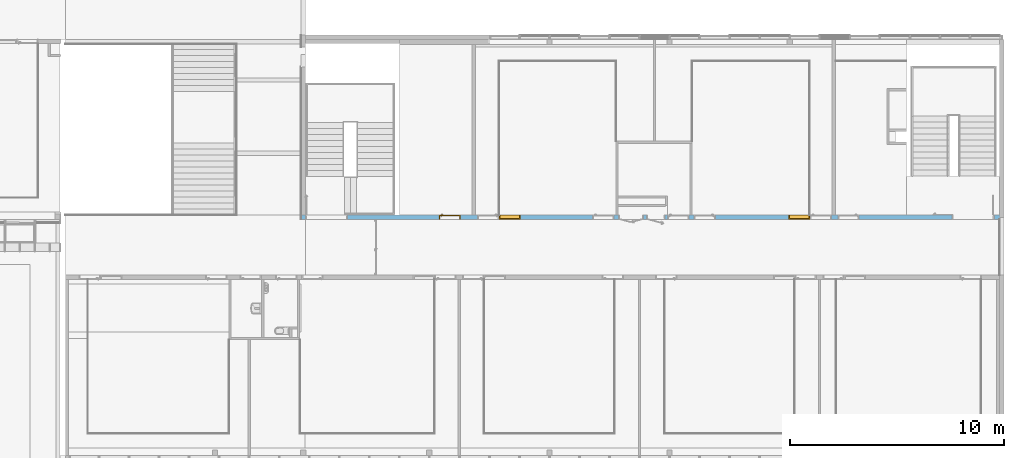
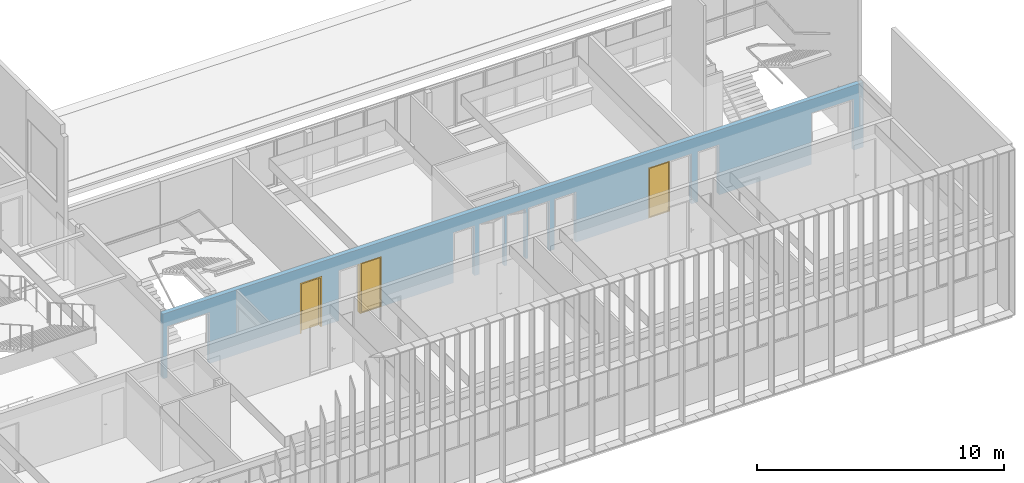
# One storey, part 86 of 106: 2 windows, 1 door, 13 openings, plus 1 element that does not belong to this part.
"""IFC2X3 building model written with IfcOpenShell, lengths in centimetres."""

from ifc_helpers import new_model, entity, si_unit, converted_unit, derived_unit, direction, frame, frame_2d, origin, place, context, subcontext, project, spatial, polyline, rectangle, extrude, clip, bounded_halfspace, faceted_brep, source, transform, mapped, material, material_list, layer, layer_set, layer_usage, type_object, type_shapes, element, fill, save


model = new_model("IFC2X3")

# Units and contexts
model_context = context("Model", 3, precision=0.001, world=origin(), true_north=direction((6.12303176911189e-17, 1.0)))
body_context = subcontext(model_context, "Body", "Model", "MODEL_VIEW")
ifc_project = project(units=[si_unit("LENGTHUNIT", "METRE", prefix="CENTI"), si_unit("AREAUNIT", "SQUARE_METRE"), si_unit("VOLUMEUNIT", "CUBIC_METRE"), converted_unit("PLANEANGLEUNIT", "DEGREE", entity("IfcRatioMeasure", 0.0174532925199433), si_unit("PLANEANGLEUNIT", "RADIAN"), dimensions=[0, 0, 0, 0, 0, 0, 0]), si_unit("MASSUNIT", "GRAM", prefix="KILO"), derived_unit("MASSDENSITYUNIT", [(si_unit("MASSUNIT", "GRAM", prefix="KILO"), 1), (si_unit("LENGTHUNIT", "METRE"), -3)]), si_unit("TIMEUNIT", "SECOND"), si_unit("FREQUENCYUNIT", "HERTZ"), si_unit("THERMODYNAMICTEMPERATUREUNIT", "DEGREE_CELSIUS"), derived_unit("THERMALTRANSMITTANCEUNIT", [(si_unit("MASSUNIT", "GRAM", prefix="KILO"), 1), (si_unit("THERMODYNAMICTEMPERATUREUNIT", "KELVIN"), -1), (si_unit("TIMEUNIT", "SECOND"), -3)]), derived_unit("VOLUMETRICFLOWRATEUNIT", [(si_unit("LENGTHUNIT", "METRE"), 3), (si_unit("TIMEUNIT", "SECOND"), -1)]), si_unit("ELECTRICCURRENTUNIT", "AMPERE"), si_unit("ELECTRICVOLTAGEUNIT", "VOLT"), si_unit("POWERUNIT", "WATT"), si_unit("FORCEUNIT", "NEWTON", prefix="KILO"), si_unit("ILLUMINANCEUNIT", "LUX"), si_unit("LUMINOUSFLUXUNIT", "LUMEN"), si_unit("LUMINOUSINTENSITYUNIT", "CANDELA"), derived_unit("USERDEFINED", [(si_unit("MASSUNIT", "GRAM", prefix="KILO"), -1), (si_unit("LENGTHUNIT", "METRE"), -2), (si_unit("TIMEUNIT", "SECOND"), 3), (si_unit("LUMINOUSFLUXUNIT", "LUMEN"), 1)]), derived_unit("LINEARVELOCITYUNIT", [(si_unit("LENGTHUNIT", "METRE"), 1), (si_unit("TIMEUNIT", "SECOND"), -1)]), si_unit("PRESSUREUNIT", "PASCAL"), derived_unit("USERDEFINED", [(si_unit("LENGTHUNIT", "METRE"), -2), (si_unit("MASSUNIT", "GRAM", prefix="KILO"), 1), (si_unit("TIMEUNIT", "SECOND"), -2)])], contexts=[model_context])

# Site, building, storey
site_placement = place(None, frame((-2781.94577612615, 7442.24238424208, 0.0)))
site = spatial("IfcSite", under=ifc_project, at=site_placement, Name="Default", CompositionType="ELEMENT")
building_placement = place(site_placement, origin())
building = spatial("IfcBuilding", under=site, at=building_placement, CompositionType="ELEMENT")
storey_placement = place(building_placement, frame((0.0, 0.0, 422.0)))
storey = spatial("IfcBuildingStorey", under=building, at=storey_placement, Name="Toiture - Cuisine", CompositionType="ELEMENT", Elevation=421.999999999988)

# Wall, openings, door, windows
ifc_material_1 = material(Name="01 - Maçonnerie")
ifc_layer = layer(ifc_material_1, 20.0)
ifc_layer_set = layer_set([ifc_layer], Name="Mur de base:04 - Structure - béton - 20cm")
ifc_layer_usage = layer_usage(ifc_layer_set, "AXIS2", "NEGATIVE", 10.0)
wall_type = type_object("IfcWallType", Name="Mur de base:04 - Structure - béton - 20cm", PredefinedType="STANDARD", material=ifc_layer_set)
wall_placement = place(building_placement, frame((-3667.99987968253, -1920.07903364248, 422.0)))
wall = element("IfcWallStandardCase", 1, at=wall_placement, inside=storey, type_object=wall_type, material=ifc_layer_usage, Name="Mur de base:04 - Structure - béton - 20cm", ObjectType="Mur de base:04 - Structure - béton - 20cm", context=body_context, shape_type="Clipping", body=[
    clip(clip(extrude(rectangle(XDim=3277.99999684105, YDim=19.9999999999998, at=frame_2d((1638.99999842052, 6.21724893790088e-14), x_axis=(-1.0, 0.0))), origin(), (0.0, 0.0, 1.0), 321.0), bounded_halfspace(frame((0.0, -10.0, 321.0), z_axis=(0.0, 0.0, -1.0), x_axis=(0.0, 1.0, 0.0)), True, frame((0.0, -10.0, 321.0)), polyline([(0.0, 0.0), (20.0, 0.0), (20.0, 20.0), (0.0, 20.0), (0.0, 0.0)]))), bounded_halfspace(frame((458.699996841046, -10.0, 321.0), z_axis=(0.0, 0.0, -1.0), x_axis=(0.0, 1.0, 0.0)), True, frame((458.699996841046, -10.0, 321.0)), polyline([(0.0, 0.0), (2797.3, 0.0), (2799.29999999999, 0.0), (2799.29999999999, 10.0), (2799.29999999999, 20.0), (2034.0, 20.0), (2018.0, 20.0), (1914.0, 20.0), (1912.0, 20.0), (1363.8, 20.0), (1353.8, 20.0), (1249.8, 20.0), (1239.8, 20.0), (1149.8, 20.0), (1139.8, 20.0), (1019.8, 20.0), (1009.8, 20.0), (466.0, 20.0), (464.0, 20.0), (0.0, 20.0), (0.0, 0.0)]))),
])
opening_1_placement = place(wall_placement, frame((2502.69999684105, -10.0, 0.0)))
element("IfcOpeningElement", 2, at=opening_1_placement, cuts=wall, Name="Int. Simple:PP simple (0.93m x 2.50m):1", ObjectType="Opening", context=body_context, shape_type="SweptSolid", body=[
    extrude(rectangle(XDim=248.500000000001, YDim=99.9999999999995, at=frame_2d((124.250000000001, 49.9999999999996), x_axis=(1.0, 0.0))), frame((0.0, 0.0, 0.0), z_axis=(0.0, 1.0, 0.0), x_axis=(0.0, 0.0, 1.0)), (0.0, 0.0, 1.0), 20.0),
])
opening_2_placement = place(wall_placement, frame((2372.69999684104, -10.0, 0.0)))
element("IfcOpeningElement", 3, at=opening_2_placement, cuts=wall, Name="Int. Simple:PV (0.93m x 2.50m):1", ObjectType="Opening", context=body_context, shape_type="SweptSolid", body=[
    extrude(rectangle(XDim=248.500000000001, YDim=99.9999999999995, at=frame_2d((124.250000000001, 49.9999999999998), x_axis=(1.0, 0.0))), frame((0.0, 0.0, 0.0), z_axis=(0.0, 1.0, 0.0), x_axis=(0.0, 0.0, 1.0)), (0.0, 0.0, 1.0), 20.0),
])
opening_3_placement = place(wall_placement, frame((1832.49999684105, -10.0, 0.0)))
element("IfcOpeningElement", 4, at=opening_3_placement, cuts=wall, Name="Int. Simple:PV (0.93m x 2.50m):1", ObjectType="Opening", context=body_context, shape_type="SweptSolid", body=[
    extrude(rectangle(XDim=248.500000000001, YDim=99.9999999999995, at=frame_2d((124.250000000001, 49.9999999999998), x_axis=(1.0, 0.0))), frame((0.0, 0.0, 0.0), z_axis=(0.0, 1.0, 0.0), x_axis=(0.0, 0.0, 1.0)), (0.0, 0.0, 1.0), 20.0),
])
opening_4_placement = place(wall_placement, frame((1708.49999684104, -10.0, 0.0)))
element("IfcOpeningElement", 5, at=opening_4_placement, cuts=wall, Name="Int. Simple:PP simple (0.93m x 2.50m):1", ObjectType="Opening", context=body_context, shape_type="SweptSolid", body=[
    extrude(rectangle(XDim=248.500000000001, YDim=99.9999999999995, at=frame_2d((124.250000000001, 49.9999999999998), x_axis=(1.0, 0.0))), frame((0.0, 0.0, 0.0), z_axis=(0.0, 1.0, 0.0), x_axis=(0.0, 0.0, 1.0)), (0.0, 0.0, 1.0), 20.0),
])
opening_5_placement = place(wall_placement, frame((1358.49999684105, -10.0, 0.0)))
element("IfcOpeningElement", 6, at=opening_5_placement, cuts=wall, Name="Int. Simple:PV (0.93m x 2.50m):1", ObjectType="Opening", context=body_context, shape_type="SweptSolid", body=[
    extrude(rectangle(XDim=248.500000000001, YDim=99.9999999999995, at=frame_2d((124.250000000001, 49.9999999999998), x_axis=(1.0, 0.0))), frame((0.0, 0.0, 0.0), z_axis=(0.0, 1.0, 0.0), x_axis=(0.0, 0.0, 1.0)), (0.0, 0.0, 1.0), 20.0),
])
opening_6_placement = place(wall_placement, frame((822.699996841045, -10.0, 0.0)))
element("IfcOpeningElement", 7, at=opening_6_placement, cuts=wall, Name="Int. Simple:PV (0.93m x 2.50m):1", ObjectType="Opening", context=body_context, shape_type="SweptSolid", body=[
    extrude(rectangle(XDim=248.500000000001, YDim=99.9999999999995, at=frame_2d((124.250000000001, 49.9999999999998), x_axis=(1.0, 0.0))), frame((0.0, 0.0, 0.0), z_axis=(0.0, 1.0, 0.0), x_axis=(0.0, 0.0, 1.0)), (0.0, 0.0, 1.0), 20.0),
])
opening_7_placement = place(wall_placement, frame((642.699996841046, -10.0, 0.0)))
opening_7 = element("IfcOpeningElement", 8, at=opening_7_placement, cuts=wall, Name="Int. Simple:PP simple (0.93m x 2.50m):1", ObjectType="Opening", context=body_context, shape_type="SweptSolid", body=[
    extrude(rectangle(XDim=248.500000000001, YDim=99.9999999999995, at=frame_2d((124.250000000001, 49.9999999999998), x_axis=(1.0, 0.0))), frame((0.0, 0.0, 0.0), z_axis=(0.0, 1.0, 0.0), x_axis=(0.0, 0.0, 1.0)), (0.0, 0.0, 1.0), 20.0),
])
opening_8_placement = place(wall_placement, frame((2272.69999684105, -10.0, 0.0)))
opening_8 = element("IfcOpeningElement", 9, at=opening_8_placement, cuts=wall, Name="châssis intérieur vitré:châssis intérieur vitré (h=270) R+1:1", ObjectType="Opening", context=body_context, shape_type="SweptSolid", body=[
    extrude(rectangle(XDim=250.0, YDim=99.9999999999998, at=frame_2d((125.0, 49.9999999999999), x_axis=(1.0, 0.0))), frame((0.0, 0.0, 0.0), z_axis=(0.0, 1.0, 0.0), x_axis=(0.0, 0.0, 1.0)), (0.0, 0.0, 1.0), 20.0),
])
opening_9_placement = place(wall_placement, frame((922.699996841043, -10.0, 0.0)))
opening_9 = element("IfcOpeningElement", 10, at=opening_9_placement, cuts=wall, Name="châssis intérieur vitré:châssis intérieur vitré (h=270) R+1:1", ObjectType="Opening", context=body_context, shape_type="SweptSolid", body=[
    extrude(rectangle(XDim=250.0, YDim=99.9999999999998, at=frame_2d((125.0, 49.9999999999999), x_axis=(1.0, 0.0))), frame((0.0, 0.0, 0.0), z_axis=(0.0, 1.0, 0.0), x_axis=(0.0, 0.0, 1.0)), (0.0, 0.0, 1.0), 20.0),
])
opening_10_placement = place(wall_placement, frame((1697.0, 10.0, 0.0)))
element("IfcOpeningElement", 11, at=opening_10_placement, cuts=wall, Name="Int. Simple:PP Placard (0.80m x 2.50m):1", ObjectType="Opening", context=body_context, shape_type="SweptSolid", body=[
    extrude(rectangle(XDim=248.500000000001, YDim=86.9999999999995, at=frame_2d((124.250000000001, 43.4999999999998), x_axis=(1.0, 0.0))), frame((0.0, 0.0, 0.0), z_axis=(0.0, -1.0, 0.0), x_axis=(0.0, 0.0, 1.0)), (0.0, 0.0, 1.0), 20.0),
])
opening_11_placement = place(wall_placement, frame((1597.0, 10.0, 0.0)))
element("IfcOpeningElement", 12, at=opening_11_placement, cuts=wall, Name="Int. Double:PP Placard (1.10m x 2.50m):1", ObjectType="Opening", context=body_context, shape_type="SweptSolid", body=[
    extrude(rectangle(XDim=248.500000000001, YDim=117.0, at=frame_2d((124.250000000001, 58.5000000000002), x_axis=(1.0, 0.0))), frame((0.0, 0.0, 0.0), z_axis=(0.0, -1.0, 0.0), x_axis=(0.0, 0.0, 1.0)), (0.0, 0.0, 1.0), 20.0),
])
opening_12_placement = place(wall_placement, frame((3035.69999684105, -10.0, 0.0)))
element("IfcOpeningElement", 13, at=opening_12_placement, cuts=wall, Name="Int. Double:PP (1.90m x 2.50m):1", ObjectType="Opening", context=body_context, shape_type="SweptSolid", body=[
    extrude(rectangle(XDim=253.500000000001, YDim=197.0, at=frame_2d((126.750000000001, 98.5000000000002), x_axis=(1.0, 0.0))), frame((0.0, 0.0, 0.0), z_axis=(0.0, 1.0, 0.0), x_axis=(0.0, 0.0, 1.0)), (0.0, 0.0, 1.0), 20.0),
])
opening_13_placement = place(wall_placement, frame((20.0, -10.0, 0.0)))
element("IfcOpeningElement", 14, at=opening_13_placement, cuts=wall, Name="Int. Double:PP (1.90m x 2.50m):1", ObjectType="Opening", context=body_context, shape_type="SweptSolid", body=[
    extrude(rectangle(XDim=253.500000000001, YDim=197.0, at=frame_2d((126.750000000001, 98.5), x_axis=(1.0, 0.0))), frame((0.0, 0.0, 0.0), z_axis=(0.0, 1.0, 0.0), x_axis=(0.0, 0.0, 1.0)), (0.0, 0.0, 1.0), 20.0),
])
ifc_material_2 = material(Name="Finition Peinture - Blanc satiné")
ifc_material_3 = material(Name="Bois - Panneau de porte")
ifc_material_4 = material(Name="Bois - Cadre de porte")
ifc_material_list_1 = material_list([ifc_material_2, ifc_material_3, ifc_material_4])
ifc_material_list_2 = material_list([ifc_material_2, ifc_material_3, ifc_material_4])
door_style = type_object("IfcDoorStyle", Name="PP simple (0.93m x 2.50m)", ConstructionType="NOTDEFINED", OperationType="SINGLE_SWING_RIGHT", ParameterTakesPrecedence=False, Sizeable=False, material=ifc_material_list_2)
shared_shape_1 = source(origin(), body_context, "Body", "Brep", [
    faceted_brep([(99.5000000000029, -0.500000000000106, 87.0), (99.5000000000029, -0.500000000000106, 108.0), (98.535276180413, -0.500000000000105, 108.399601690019), (97.5000000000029, -0.500000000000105, 108.535898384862), (96.4647238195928, -0.500000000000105, 108.399601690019), (95.500000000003, -0.500000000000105, 108.0), (95.5000000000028, -0.500000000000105, 87.0), (96.4647238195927, -0.500000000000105, 86.6003983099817), (97.5000000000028, -0.500000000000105, 86.464101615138), (98.5352761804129, -0.500000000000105, 86.6003983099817), (99.5000000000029, 0.0, 108.0), (99.5000000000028, 0.0, 87.0), (98.5352761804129, 0.0, 86.6003983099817), (97.5000000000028, 0.0, 86.464101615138), (96.4647238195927, 0.0, 86.6003983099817), (95.5000000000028, 0.0, 87.0), (95.5000000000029, 0.0, 108.0), (96.4647238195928, 0.0, 108.399601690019), (97.5000000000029, 0.0, 108.535898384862), (98.535276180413, 0.0, 108.399601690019)], [[[0, 1, 2, 3, 4, 5, 6, 7, 8, 9]], [[10, 11, 12, 13, 14, 15, 16, 17, 18, 19]], [[9, 12, 11, 0]], [[8, 13, 12, 9]], [[7, 14, 13, 8]], [[7, 6, 15, 14]], [[15, 6, 5, 16]], [[4, 17, 16, 5]], [[3, 18, 17, 4]], [[2, 19, 18, 3]], [[2, 1, 10, 19]], [[11, 10, 1, 0]]]),
    faceted_brep([(99.5000000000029, 4.0, 87.0), (99.5000000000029, 4.0, 108.0), (98.535276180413, 4.0, 108.399601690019), (97.5000000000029, 4.0, 108.535898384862), (96.4647238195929, 4.0, 108.399601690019), (95.500000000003, 4.0, 108.0), (95.5000000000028, 4.0, 87.0), (96.4647238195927, 4.0, 86.6003983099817), (97.5000000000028, 4.0, 86.464101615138), (98.5352761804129, 4.0, 86.6003983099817), (97.5000000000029, 4.49999999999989, 108.535898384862), (98.535276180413, 4.49999999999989, 108.399601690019), (99.5000000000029, 4.49999999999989, 108.0), (99.5000000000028, 4.49999999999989, 87.0), (98.5352761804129, 4.49999999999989, 86.6003983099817), (97.5000000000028, 4.49999999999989, 86.464101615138), (96.4647238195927, 4.49999999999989, 86.6003983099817), (95.5000000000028, 4.49999999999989, 87.0), (95.500000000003, 4.49999999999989, 108.0), (96.4647238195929, 4.49999999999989, 108.399601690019)], [[[0, 1, 2, 3, 4, 5, 6, 7, 8, 9]], [[10, 11, 12, 13, 14, 15, 16, 17, 18, 19]], [[4, 19, 18, 5]], [[3, 10, 19, 4]], [[2, 11, 10, 3]], [[2, 1, 12, 11]], [[13, 12, 1, 0]], [[9, 14, 13, 0]], [[8, 15, 14, 9]], [[7, 16, 15, 8]], [[7, 6, 17, 16]], [[17, 6, 5, 18]]]),
    faceted_brep([(97.2974701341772, -0.500000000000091, 100.778044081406), (97.7025298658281, -0.500000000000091, 100.778044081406), (98.1000000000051, -0.500000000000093, 100.699999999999), (98.100000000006, -0.500000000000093, 99.2999999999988), (97.7025298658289, -0.500000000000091, 99.221955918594), (97.297470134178, -0.500000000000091, 99.2219559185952), (96.9000000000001, -0.500000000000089, 99.3000000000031), (96.9000000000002, -0.500000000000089, 100.7), (97.7025298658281, -3.10045754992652, 100.778044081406), (98.1000000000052, -3.26509507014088, 100.7), (97.2974701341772, -2.93267631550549, 100.778044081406), (95.9298602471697, -4.30028620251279, 100.778044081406), (96.0976414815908, -4.70534593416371, 100.778044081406), (96.9000000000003, -2.76803879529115, 100.7), (96.9000000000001, -2.76803879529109, 99.3000000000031), (97.297470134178, -2.93267631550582, 99.2219559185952), (97.7025298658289, -3.10045754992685, 99.221955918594), (96.0976414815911, -4.70534593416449, 99.221955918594), (95.9298602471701, -4.30028620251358, 99.2219559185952), (98.100000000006, -3.26509507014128, 99.2999999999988), (96.2622790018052, -5.1028160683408, 100.7), (95.7652227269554, -3.90281606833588, 100.7), (95.7652227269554, -3.90281606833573, 99.3000000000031), (96.2622790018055, -5.10281606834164, 99.2999999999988), (87.4981359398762, -5.10281606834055, 100.7), (87.4981359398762, -4.70534593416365, 100.778044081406), (87.4981359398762, -4.30028620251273, 100.778044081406), (87.4981359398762, -3.90281606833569, 100.699999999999), (87.4981359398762, -3.90281606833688, 99.3000000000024), (87.4981359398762, -4.30028620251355, 99.2219559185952), (87.4981359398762, -4.70534593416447, 99.221955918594), (87.4981359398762, -5.10281606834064, 99.2999999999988), (91.7139980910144, -4.5028160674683, 100.78786867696), (92.2692302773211, -5.1028160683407, 100.7), (91.6316793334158, -3.9028160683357, 100.7), (91.631679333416, -3.90281606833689, 99.3000000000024), (91.7139981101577, -4.50281607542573, 99.2121313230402), (92.2692310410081, -5.10281606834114, 99.2999999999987)], [[[0, 1, 2, 3, 4, 5, 6, 7]], [[2, 1, 8, 9]], [[1, 0, 10, 11, 12, 8]], [[0, 7, 13, 10]], [[14, 13, 7, 6]], [[5, 15, 14, 6]], [[5, 4, 16, 17, 18, 15]], [[3, 19, 16, 4]], [[9, 19, 3, 2]], [[9, 8, 12, 20]], [[10, 13, 21, 11]], [[22, 21, 13, 14]], [[14, 15, 18, 22]], [[16, 19, 23, 17]], [[20, 23, 19, 9]], [[24, 25, 26, 27, 28, 29, 30, 31]], [[32, 25, 33]], [[33, 25, 24]], [[33, 20, 12]], [[11, 34, 32]], [[34, 11, 21]], [[27, 26, 34]], [[32, 26, 25]], [[32, 34, 26]], [[32, 33, 12]], [[11, 32, 12]], [[21, 22, 35, 28, 27, 34]], [[36, 29, 35]], [[30, 36, 37]], [[18, 35, 22]], [[29, 28, 35]], [[30, 37, 31]], [[37, 17, 23]], [[36, 17, 37]], [[36, 18, 17]], [[36, 35, 18]], [[29, 36, 30]], [[23, 20, 33, 24, 31, 37]]]),
    faceted_brep([(97.2974701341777, 4.49999999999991, 99.2219559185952), (97.7025298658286, 4.49999999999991, 99.221955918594), (98.1000000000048, 4.4999999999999, 99.2999999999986), (98.1000000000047, 4.4999999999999, 100.7), (97.7025298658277, 4.49999999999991, 100.778044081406), (97.2974701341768, 4.49999999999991, 100.778044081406), (96.8999999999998, 4.49999999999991, 100.7), (96.900000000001, 4.49999999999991, 99.3000000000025), (96.8999999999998, 6.7485204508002, 100.7), (96.8999999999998, 6.74852045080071, 99.3000000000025), (97.2974701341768, 6.91315797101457, 100.778044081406), (97.7025298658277, 7.0809392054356, 100.778044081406), (96.0838906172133, 8.69957845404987, 100.778044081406), (95.9161093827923, 8.29451872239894, 100.778044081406), (98.1000000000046, 7.24557672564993, 100.7), (98.1000000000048, 7.24557672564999, 99.2999999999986), (97.7025298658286, 7.08093920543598, 99.221955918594), (97.2974701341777, 6.91315797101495, 99.2219559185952), (95.9161093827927, 8.29451872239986, 99.2219559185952), (96.0838906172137, 8.69957845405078, 99.221955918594), (95.751471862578, 7.89704858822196, 100.7), (95.7514718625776, 7.89704858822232, 99.3000000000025), (96.2485281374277, 9.09704858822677, 100.7), (96.2485281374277, 9.09704858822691, 99.2999999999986), (87.4954216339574, 8.29451872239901, 100.778044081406), (87.4954216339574, 8.69957845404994, 100.778044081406), (87.4954216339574, 9.09704858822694, 100.7), (87.4954216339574, 9.09704858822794, 99.2999999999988), (87.4954216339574, 8.6995784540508, 99.221955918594), (87.4954216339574, 8.29451872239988, 99.2219559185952), (87.4954216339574, 7.89704858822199, 99.3000000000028), (87.4954216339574, 7.89704858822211, 100.7), (91.6234467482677, 7.89704858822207, 100.7), (91.6234479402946, 7.89704858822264, 99.3000000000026), (91.7057655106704, 8.49704858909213, 100.78786867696), (92.255479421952, 9.09704858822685, 100.7), (92.2554795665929, 9.09704858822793, 99.2999999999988), (91.7057654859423, 8.49704858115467, 99.2121313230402)], [[[0, 1, 2, 3, 4, 5, 6, 7]], [[8, 9, 7, 6]], [[5, 10, 8, 6]], [[5, 4, 11, 12, 13, 10]], [[3, 14, 11, 4]], [[14, 3, 2, 15]], [[2, 1, 16, 15]], [[1, 0, 17, 18, 19, 16]], [[0, 7, 9, 17]], [[20, 21, 9, 8]], [[8, 10, 13, 20]], [[14, 22, 12, 11]], [[23, 22, 14, 15]], [[15, 16, 19, 23]], [[17, 9, 21, 18]], [[24, 25, 26, 27, 28, 29, 30, 31]], [[21, 20, 32, 31, 30, 33]], [[34, 24, 32]], [[25, 34, 35]], [[13, 32, 20]], [[24, 31, 32]], [[25, 35, 26]], [[35, 12, 22]], [[34, 12, 35]], [[34, 13, 12]], [[34, 32, 13]], [[24, 34, 25]], [[22, 23, 36, 27, 26, 35]], [[37, 28, 36]], [[36, 28, 27]], [[36, 23, 19]], [[18, 33, 37]], [[33, 18, 21]], [[30, 29, 33]], [[37, 29, 28]], [[37, 33, 29]], [[37, 36, 19]], [[18, 37, 19]]]),
    faceted_brep([(103.500000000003, 4.0, 245.0), (103.500000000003, 4.0, 0.0), (10.5000000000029, 4.0, 0.0), (10.5000000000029, 4.0, 245.0), (103.500000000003, 0.0, 245.0), (10.5000000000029, 0.0, 245.0), (10.5000000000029, 0.0, 0.0), (103.500000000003, 0.0, 0.0)], [[[0, 1, 2, 3]], [[4, 5, 6, 7]], [[3, 5, 4, 0]], [[2, 6, 5, 3]], [[1, 7, 6, 2]], [[0, 4, 7, 1]]]),
    faceted_brep([(107.0, 20.0, 0.0), (107.0, 0.0, 0.0), (108.500000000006, 0.0, 0.0), (108.500000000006, -0.500000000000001, 0.0), (103.500000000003, -0.500000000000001, 0.0), (103.500000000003, 4.0, 0.0), (102.0, 4.0, 0.0), (102.0, 20.5000000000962, 0.0), (108.500000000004, 20.5000000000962, 0.0), (108.500000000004, 20.0, 0.0), (107.0, 20.0, 248.500000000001), (107.0, 0.0, 248.500000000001), (108.500000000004, 20.0, 250.0), (5.50000000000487, 20.0, 250.0), (5.50000000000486, 20.0, 0.0), (7.0, 20.0, 0.0), (7.0, 20.0, 248.500000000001), (102.0, 4.0, 243.5), (102.0, 20.5000000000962, 243.5), (103.500000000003, 4.0, 245.0), (10.5000000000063, 4.0, 245.0), (10.5000000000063, 4.0, 0.0), (12.0, 4.0, 0.0), (12.0, 4.0, 243.5), (7.0, 0.0, 0.0), (7.0, 0.0, 248.500000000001), (5.50000000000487, 20.5000000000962, 0.0), (12.0, 20.5000000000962, 0.0), (10.5000000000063, -0.500000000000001, 0.0), (5.5000000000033, -0.500000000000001, 0.0), (5.5000000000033, 0.0, 0.0), (12.0, 20.5000000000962, 243.5), (103.500000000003, -0.500000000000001, 245.0), (108.500000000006, -0.500000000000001, 250.0), (5.5000000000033, -0.500000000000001, 250.0), (10.5000000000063, -0.500000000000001, 245.0), (108.500000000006, 0.0, 250.0), (5.50000000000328, 0.0, 250.0), (108.500000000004, 20.5000000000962, 250.0), (5.50000000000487, 20.5000000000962, 250.0)], [[[0, 1, 2, 3, 4, 5, 6, 7, 8, 9]], [[0, 10, 11, 1]], [[9, 12, 13, 14, 15, 16, 10, 0]], [[7, 6, 17, 18]], [[5, 19, 20, 21, 22, 23, 17, 6]], [[16, 15, 24, 25]], [[15, 14, 26, 27, 22, 21, 28, 29, 30, 24]], [[23, 22, 27, 31]], [[10, 16, 25, 11]], [[17, 23, 31, 18]], [[5, 4, 32, 19]], [[3, 33, 34, 29, 28, 35, 32, 4]], [[2, 36, 33, 3]], [[1, 11, 25, 24, 30, 37, 36, 2]], [[8, 38, 12, 9]], [[7, 18, 31, 27, 26, 39, 38, 8]], [[35, 28, 21, 20]], [[37, 30, 29, 34]], [[39, 26, 14, 13]], [[32, 35, 20, 19]], [[36, 37, 34, 33]], [[38, 39, 13, 12]]]),
])
type_shapes(door_style, [shared_shape_1])
door_placement = place(opening_7_placement, frame((107.0, 20.0, 0.0), z_axis=(0.0, 0.0, 1.0), x_axis=(-1.0, 0.0, 0.0)))
door = element("IfcDoor", 15, at=door_placement, inside=storey, type_object=door_style, material=ifc_material_list_1, Name="Int. Simple:PP simple (0.93m x 2.50m)", ObjectType="Int. Simple:PP simple (0.93m x 2.50m)", OverallHeight=248.500000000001, OverallWidth=99.9999999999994, context=body_context, shape_type="MappedRepresentation", body=[
    mapped(shared_shape_1, transform((0.0, 0.0, 0.0), scale=1.0)),
])
fill(opening_7, door)
ifc_material_5 = material(Name="Verre")
ifc_material_6 = material(Name="huisserie bois")
ifc_material_list_3 = material_list([ifc_material_5, ifc_material_6])
ifc_material_list_4 = material_list([ifc_material_5, ifc_material_6])
window_style_1 = type_object("IfcWindowStyle", Name="châssis intérieur vitré (h=270) R+1", ConstructionType="NOTDEFINED", OperationType="NOTDEFINED", ParameterTakesPrecedence=False, Sizeable=False, material=ifc_material_list_4)
shared_shape_2 = source(origin(), body_context, "Body", "Brep", [
    faceted_brep([(97.0, 5.0, 247.0), (97.0, 5.0, 3.0), (3.0, 5.0, 3.0), (3.0, 5.0, 247.0), (97.0, 2.0, 247.0), (97.0, 2.0, 3.0), (3.0, 2.0, 3.0), (3.0, 2.0, 247.0)], [[[0, 1, 2, 3]], [[1, 0, 4, 5]], [[2, 1, 5, 6]], [[3, 2, 6, 7]], [[4, 7, 6, 5]], [[0, 3, 7, 4]]]),
    faceted_brep([(97.0, 2.0, 247.0), (97.0, 0.0, 247.0), (97.0, 0.0, 3.0), (97.0, 2.0, 3.0), (95.0, 0.0, 5.0), (5.0, 0.0, 5.0), (5.0, 0.0, 245.0), (95.0, 0.0, 245.0), (3.0, 0.0, 247.0), (3.0, 0.0, 3.0), (3.0, 2.0, 3.0), (3.0, 2.0, 247.0), (95.0, 2.0, 245.0), (5.0, 2.0, 245.0), (5.0, 2.0, 5.0), (95.0, 2.0, 5.0)], [[[0, 1, 2, 3]], [[4, 5, 6, 7], [1, 8, 9, 2]], [[3, 2, 9, 10]], [[3, 10, 11, 0], [12, 13, 14, 15]], [[7, 12, 15, 4]], [[4, 15, 14, 5]], [[10, 9, 8, 11]], [[5, 14, 13, 6]], [[11, 8, 1, 0]], [[6, 13, 12, 7]]], outer=[[True], [False, True], [True], [True, False], [True], [True], [True], [True], [True], [True]]),
    faceted_brep([(95.0, 5.0, 245.0), (95.0, 20.0, 245.0), (95.0, 20.0, 5.0), (95.0, 5.0, 5.0), (100.0, 20.0, 0.0), (0.0, 20.0, 0.0), (0.0, 20.0, 250.0), (100.0, 20.0, 250.0), (5.0, 20.0, 245.0), (5.0, 20.0, 5.0), (5.0, 5.0, 5.0), (5.0, 5.0, 245.0), (97.0, 5.0, 247.0), (3.0, 5.0, 247.0), (3.0, 5.0, 3.0), (97.0, 5.0, 3.0), (97.0, 0.0, 247.0), (97.0, 0.0, 3.0), (3.0, 0.0, 3.0), (3.0, 0.0, 247.0), (100.0, 0.0, 250.0), (0.0, 0.0, 250.0), (0.0, 0.0, 0.0), (100.0, 0.0, 0.0)], [[[0, 1, 2, 3]], [[4, 5, 6, 7], [1, 8, 9, 2]], [[3, 2, 9, 10]], [[3, 10, 11, 0], [12, 13, 14, 15]], [[16, 12, 15, 17]], [[17, 15, 14, 18]], [[17, 18, 19, 16], [20, 21, 22, 23]], [[7, 20, 23, 4]], [[4, 23, 22, 5]], [[10, 9, 8, 11]], [[18, 14, 13, 19]], [[5, 22, 21, 6]], [[11, 8, 1, 0]], [[19, 13, 12, 16]], [[6, 21, 20, 7]]], outer=[[True], [True, False], [True], [False, True], [True], [True], [False, True], [True], [True], [True], [True], [True], [True], [True], [True]]),
])
type_shapes(window_style_1, [shared_shape_2])
window_1_placement = place(opening_9_placement, origin())
window_1 = element("IfcWindow", 16, at=window_1_placement, inside=storey, type_object=window_style_1, material=ifc_material_list_3, Name="châssis intérieur vitré:châssis intérieur vitré (h=270) R+1", ObjectType="châssis intérieur vitré:châssis intérieur vitré (h=270) R+1", OverallHeight=250.0, OverallWidth=99.9999999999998, context=body_context, shape_type="MappedRepresentation", body=[
    mapped(shared_shape_2, transform((0.0, 0.0, 0.0), scale=1.0)),
])
fill(opening_9, window_1)
ifc_material_list_5 = material_list([ifc_material_5, ifc_material_6])
ifc_material_list_6 = material_list([ifc_material_5, ifc_material_6])
window_style_2 = type_object("IfcWindowStyle", Name="châssis intérieur vitré (h=270) R+1", ConstructionType="NOTDEFINED", OperationType="NOTDEFINED", ParameterTakesPrecedence=False, Sizeable=False, material=ifc_material_list_6)
shared_shape_3 = source(origin(), body_context, "Body", "Brep", [
    faceted_brep([(3.0, 5.0, 247.0), (97.0, 5.0, 247.0), (97.0, 5.0, 3.0), (3.0, 5.0, 3.0), (3.0, 2.0, 3.0), (3.0, 2.0, 247.0), (97.0, 2.0, 3.0), (97.0, 2.0, 247.0)], [[[0, 1, 2, 3]], [[3, 4, 5, 0]], [[2, 6, 4, 3]], [[1, 7, 6, 2]], [[5, 4, 6, 7]], [[0, 5, 7, 1]]]),
    faceted_brep([(3.0, 2.0, 247.0), (3.0, 2.0, 3.0), (3.0, 0.0, 3.0), (3.0, 0.0, 247.0), (97.0, 0.0, 3.0), (97.0, 0.0, 247.0), (5.0, 0.0, 5.0), (5.0, 0.0, 245.0), (95.0, 0.0, 245.0), (95.0, 0.0, 5.0), (97.0, 2.0, 3.0), (97.0, 2.0, 247.0), (5.0, 2.0, 245.0), (5.0, 2.0, 5.0), (95.0, 2.0, 5.0), (95.0, 2.0, 245.0)], [[[0, 1, 2, 3]], [[3, 2, 4, 5], [6, 7, 8, 9]], [[1, 10, 4, 2]], [[1, 0, 11, 10], [12, 13, 14, 15]], [[7, 6, 13, 12]], [[6, 9, 14, 13]], [[10, 11, 5, 4]], [[9, 8, 15, 14]], [[11, 0, 3, 5]], [[8, 7, 12, 15]]]),
    faceted_brep([(5.0, 5.0, 245.0), (5.0, 5.0, 5.0), (5.0, 20.0, 5.0), (5.0, 20.0, 245.0), (95.0, 20.0, 5.0), (95.0, 20.0, 245.0), (0.0, 20.0, 0.0), (0.0, 20.0, 250.0), (100.0, 20.0, 250.0), (100.0, 20.0, 0.0), (95.0, 5.0, 5.0), (95.0, 5.0, 245.0), (3.0, 5.0, 247.0), (3.0, 5.0, 3.0), (97.0, 5.0, 3.0), (97.0, 5.0, 247.0), (3.0, 0.0, 247.0), (3.0, 0.0, 3.0), (97.0, 0.0, 3.0), (97.0, 0.0, 247.0), (0.0, 0.0, 250.0), (0.0, 0.0, 0.0), (100.0, 0.0, 0.0), (100.0, 0.0, 250.0)], [[[0, 1, 2, 3]], [[3, 2, 4, 5], [6, 7, 8, 9]], [[1, 10, 4, 2]], [[1, 0, 11, 10], [12, 13, 14, 15]], [[16, 17, 13, 12]], [[17, 18, 14, 13]], [[17, 16, 19, 18], [20, 21, 22, 23]], [[7, 6, 21, 20]], [[6, 9, 22, 21]], [[10, 11, 5, 4]], [[18, 19, 15, 14]], [[9, 8, 23, 22]], [[11, 0, 3, 5]], [[19, 16, 12, 15]], [[8, 7, 20, 23]]], outer=[[True], [False, True], [True], [False, True], [True], [True], [False, True], [True], [True], [True], [True], [True], [True], [True], [True]]),
])
type_shapes(window_style_2, [shared_shape_3])
window_2_placement = place(opening_8_placement, origin())
window_2 = element("IfcWindow", 17, at=window_2_placement, inside=storey, type_object=window_style_2, material=ifc_material_list_5, Name="châssis intérieur vitré:châssis intérieur vitré (h=270) R+1", ObjectType="châssis intérieur vitré:châssis intérieur vitré (h=270) R+1", OverallHeight=250.0, OverallWidth=100.0, context=body_context, shape_type="MappedRepresentation", body=[
    mapped(shared_shape_3, transform((0.0, 0.0, 0.0), scale=1.0)),
])
fill(opening_8, window_2)

save(model, "model.ifc")
